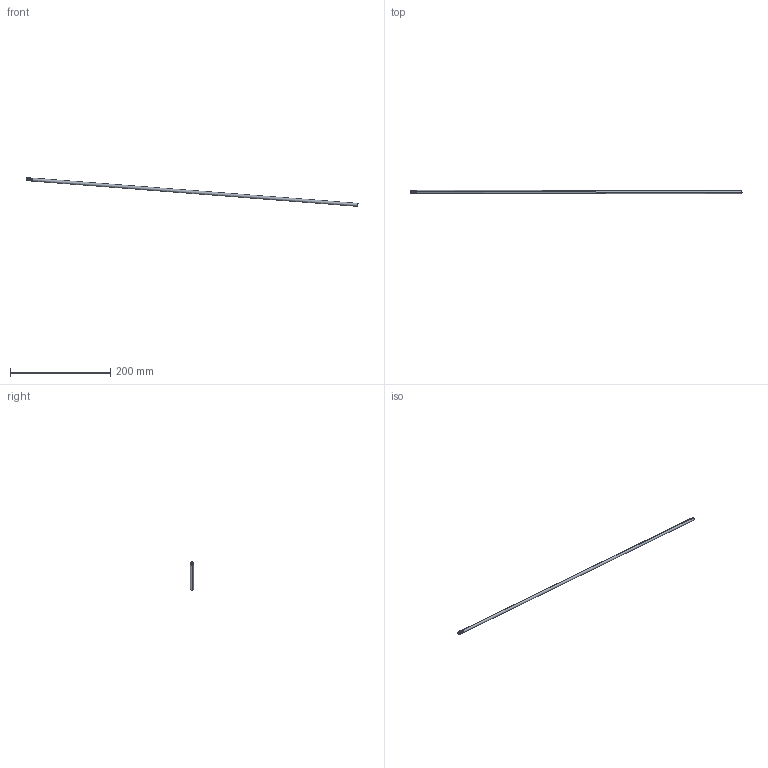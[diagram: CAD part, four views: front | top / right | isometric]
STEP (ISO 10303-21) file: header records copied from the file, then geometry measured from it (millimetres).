
FILE_DESCRIPTION((''),'2;1');
FILE_NAME('0000237294_PRT','2025-11-12T18:36:48',('Wyndorps'),(''),'CREO PARAMETRIC BY PTC INC, 2025010','CREO PARAMETRIC BY PTC INC, 2025010','');
FILE_SCHEMA(('CONFIG_CONTROL_DESIGN'));
Length unit declared in the file: millimetre
Products named in the file (1): 0000237294_PRT
Bounding box: 661.4 x 6 x 57.07 mm (x, y, z)
Volume: 18594 mm3; surface area: 12735.2 mm2
Topology: 1 solids, 2 shells, 44 faces, 108 edges, 67 vertices
Faces by surface type: cylinder 23, bspline 9, cone 6, plane 4, torus 2
Entity records: 6021 total; most frequent: CARTESIAN_POINT 5050, ORIENTED_EDGE 208, DIRECTION 156, EDGE_CURVE 106, VERTEX_POINT 67, AXIS2_PLACEMENT_3D 62, B_SPLINE_CURVE_WITH_KNOTS 48, EDGE_LOOP 47
